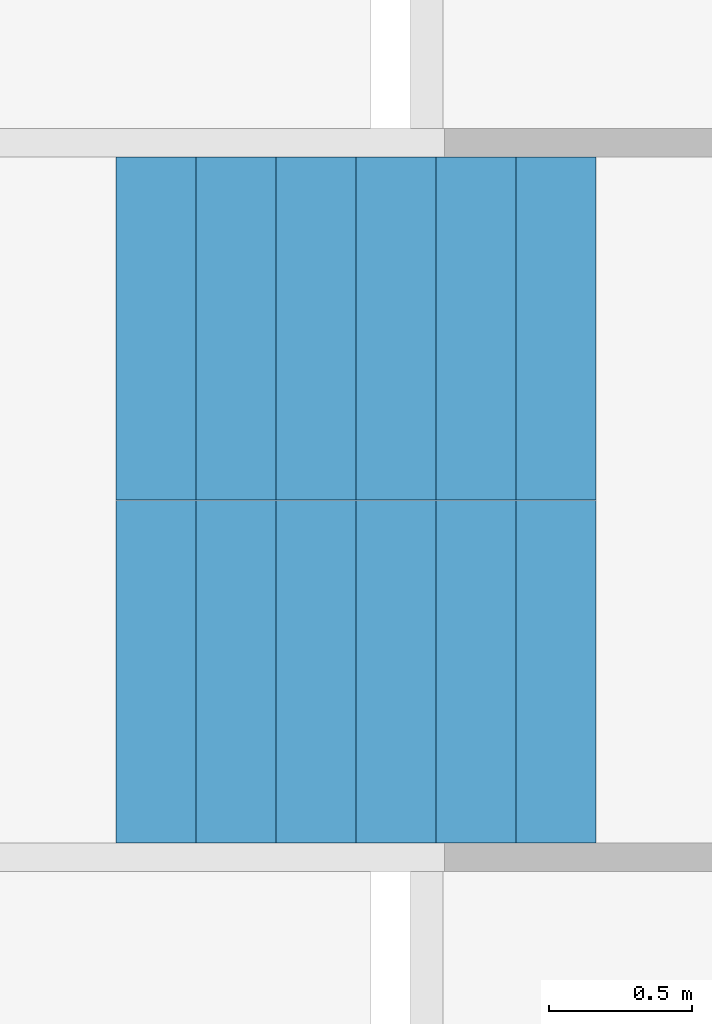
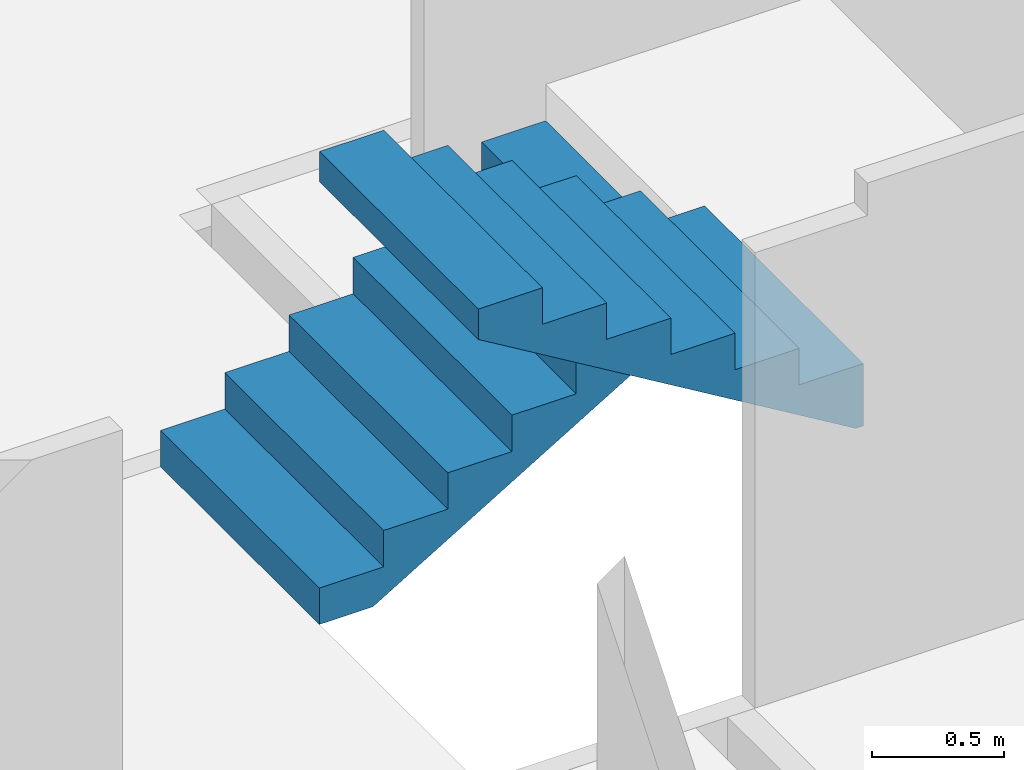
# One storey, part 6 of 6: 2 stair flights, 1 element without a shape of its own.
"""IFC4 building model written with IfcOpenShell, lengths in metres."""

from ifc_helpers import new_model, entity, si_unit, converted_unit, derived_unit, direction, frame, origin, place, context, subcontext, project, spatial, polygons, material, type_object, element, aggregate, save


model = new_model("IFC4")

# Units and contexts
model_context = context("Model", 3, precision=1e-05, world=origin(), true_north=direction((6.123031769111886e-17, 1.0)))
body_context = subcontext(model_context, "Body", "Model", "MODEL_VIEW")
ifc_project = project(units=[si_unit("LENGTHUNIT", "METRE"), si_unit("AREAUNIT", "SQUARE_METRE"), si_unit("VOLUMEUNIT", "CUBIC_METRE"), converted_unit("PLANEANGLEUNIT", "DEGREE", entity("IfcRatioMeasure", 0.017453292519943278), si_unit("PLANEANGLEUNIT", "RADIAN"), dimensions=[0, 0, 0, 0, 0, 0, 0]), si_unit("MASSUNIT", "GRAM", prefix="KILO"), derived_unit("MASSDENSITYUNIT", [(si_unit("MASSUNIT", "GRAM", prefix="KILO"), 1), (si_unit("LENGTHUNIT", "METRE"), -3)]), derived_unit("IONCONCENTRATIONUNIT", [(si_unit("MASSUNIT", "GRAM", prefix="KILO"), 1), (si_unit("LENGTHUNIT", "METRE"), -3)]), derived_unit("MOMENTOFINERTIAUNIT", [(si_unit("LENGTHUNIT", "METRE"), 4)]), si_unit("TIMEUNIT", "SECOND"), si_unit("FREQUENCYUNIT", "HERTZ"), si_unit("THERMODYNAMICTEMPERATUREUNIT", "DEGREE_CELSIUS"), derived_unit("THERMALTRANSMITTANCEUNIT", [(si_unit("MASSUNIT", "GRAM", prefix="KILO"), 1), (si_unit("THERMODYNAMICTEMPERATUREUNIT", "KELVIN"), -1), (si_unit("TIMEUNIT", "SECOND"), -3)]), derived_unit("THERMALCONDUCTANCEUNIT", [(si_unit("MASSUNIT", "GRAM", prefix="KILO"), 1), (si_unit("THERMODYNAMICTEMPERATUREUNIT", "KELVIN"), -1), (si_unit("TIMEUNIT", "SECOND"), -3), (si_unit("LENGTHUNIT", "METRE"), 1)]), derived_unit("VOLUMETRICFLOWRATEUNIT", [(si_unit("LENGTHUNIT", "METRE"), 3), (si_unit("TIMEUNIT", "SECOND"), -1)]), derived_unit("MASSFLOWRATEUNIT", [(si_unit("MASSUNIT", "GRAM", prefix="KILO"), 1), (si_unit("TIMEUNIT", "SECOND"), -1)]), derived_unit("ROTATIONALFREQUENCYUNIT", [(si_unit("TIMEUNIT", "SECOND"), -1)]), si_unit("ELECTRICCURRENTUNIT", "AMPERE"), si_unit("ELECTRICVOLTAGEUNIT", "VOLT"), si_unit("POWERUNIT", "WATT"), si_unit("FORCEUNIT", "NEWTON", prefix="KILO"), si_unit("ILLUMINANCEUNIT", "LUX"), si_unit("LUMINOUSFLUXUNIT", "LUMEN"), si_unit("LUMINOUSINTENSITYUNIT", "CANDELA"), derived_unit("USERDEFINED", [(si_unit("MASSUNIT", "GRAM", prefix="KILO"), -1), (si_unit("LENGTHUNIT", "METRE"), -2), (si_unit("TIMEUNIT", "SECOND"), 3), (si_unit("LUMINOUSFLUXUNIT", "LUMEN"), 1)]), derived_unit("USERDEFINED", [(si_unit("MASSUNIT", "GRAM", prefix="KILO"), 1), (si_unit("TIMEUNIT", "SECOND"), -3), (si_unit("LENGTHUNIT", "METRE"), 3), (si_unit("ELECTRICCURRENTUNIT", "AMPERE"), -2)]), derived_unit("SOUNDPOWERUNIT", [(si_unit("MASSUNIT", "GRAM", prefix="KILO"), 1), (si_unit("TIMEUNIT", "SECOND"), -3), (si_unit("LENGTHUNIT", "METRE"), 2)]), derived_unit("SOUNDPRESSUREUNIT", [(si_unit("MASSUNIT", "GRAM", prefix="KILO"), 1), (si_unit("LENGTHUNIT", "METRE"), -1), (si_unit("TIMEUNIT", "SECOND"), -2)]), derived_unit("LINEARVELOCITYUNIT", [(si_unit("LENGTHUNIT", "METRE"), 1), (si_unit("TIMEUNIT", "SECOND"), -1)]), si_unit("PRESSUREUNIT", "PASCAL"), derived_unit("USERDEFINED", [(si_unit("MASSUNIT", "GRAM", prefix="KILO"), 1), (si_unit("LENGTHUNIT", "METRE"), -2), (si_unit("TIMEUNIT", "SECOND"), -2)]), derived_unit("LINEARFORCEUNIT", [(si_unit("MASSUNIT", "GRAM", prefix="KILO"), 1), (si_unit("TIMEUNIT", "SECOND"), -2)]), derived_unit("PLANARFORCEUNIT", [(si_unit("MASSUNIT", "GRAM", prefix="KILO"), 1), (si_unit("LENGTHUNIT", "METRE"), -1), (si_unit("TIMEUNIT", "SECOND"), -2)]), derived_unit("SPECIFICHEATCAPACITYUNIT", [(si_unit("THERMODYNAMICTEMPERATUREUNIT", "KELVIN"), -1), (si_unit("LENGTHUNIT", "METRE"), 2), (si_unit("TIMEUNIT", "SECOND"), -2)]), derived_unit("HEATINGVALUEUNIT", [(si_unit("LENGTHUNIT", "METRE"), 2), (si_unit("TIMEUNIT", "SECOND"), -2)]), derived_unit("VAPORPERMEABILITYUNIT", [(si_unit("LENGTHUNIT", "METRE"), -1), (si_unit("TIMEUNIT", "SECOND"), 1)]), derived_unit("DYNAMICVISCOSITYUNIT", [(si_unit("MASSUNIT", "GRAM", prefix="KILO"), 1), (si_unit("TIMEUNIT", "SECOND"), -1), (si_unit("LENGTHUNIT", "METRE"), -1)]), derived_unit("THERMALEXPANSIONCOEFFICIENTUNIT", [(si_unit("THERMODYNAMICTEMPERATUREUNIT", "KELVIN"), -1)]), derived_unit("MODULUSOFELASTICITYUNIT", [(si_unit("MASSUNIT", "GRAM", prefix="KILO"), 1), (si_unit("LENGTHUNIT", "METRE"), -1), (si_unit("TIMEUNIT", "SECOND"), -2)]), derived_unit("ISOTHERMALMOISTURECAPACITYUNIT", [(si_unit("LENGTHUNIT", "METRE"), 3), (si_unit("MASSUNIT", "GRAM", prefix="KILO"), -1)]), derived_unit("MOISTUREDIFFUSIVITYUNIT", [(si_unit("TIMEUNIT", "SECOND"), -1), (si_unit("LENGTHUNIT", "METRE"), 2)])], contexts=[model_context])

# Site, building, storey
site_placement = place(None, origin())
site = spatial("IfcSite", under=ifc_project, at=site_placement, Name="Default", CompositionType="ELEMENT")
building_placement = place(site_placement, origin())
building = spatial("IfcBuilding", under=site, at=building_placement, Name="Las nubes", CompositionType="ELEMENT")
storey_placement = place(building_placement, frame((0.0, 0.0, 7.050000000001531)))
storey = spatial("IfcBuildingStorey", under=building, at=storey_placement, Name="PISO 4", CompositionType="ELEMENT", Elevation=7.050000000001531)

# Stair, stair flights
stair_type = type_object("IfcStairType", Name="Cast-In-Place Stair:B1080_Escalera Monolitica en Concreto", PredefinedType="HALF_TURN_STAIR")
stair_placement = place(storey_placement, origin())
stair = element("IfcStair", 1, at=stair_placement, inside=storey, type_object=stair_type, Name="Cast-In-Place Stair:Stair", ObjectType="Cast-In-Place Stair:B1080_Escalera Monolitica en Concreto", PredefinedType="HALF_TURN_STAIR")
ifc_material = material(Name="Concrete, Cast In Situ", Category="Materials")
stair_flight_type = type_object("IfcStairFlightType", Name="Monolithic Run:120mm Depth", PredefinedType="STRAIGHT")
stair_flight_1_placement = place(stair_placement, frame((9.55250000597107, -6.4250000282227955, 0.0)))
stair_flight_1 = element("IfcStairFlight", 2, at=stair_flight_1_placement, type_object=stair_flight_type, material=ifc_material, Name="Cast-In-Place Stair:Stair:524173 Run 1", ObjectType="Monolithic Run:120mm Depth", PredefinedType="STRAIGHT", context=body_context, shape_type="Tessellation", body=[
    polygons([(0.2800000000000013, 1.2000000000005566, 0.16785714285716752), (1.0828671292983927e-15, 1.2000000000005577, 0.16785714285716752), (1.0828671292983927e-15, 5.4143356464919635e-15, 0.16785714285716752), (0.27999999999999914, 4.331468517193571e-15, 0.16785714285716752), (0.28000000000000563, 1.2000000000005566, 0.027945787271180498), (0.23338404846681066, 1.2000000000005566, 1.0828671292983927e-15), (1.0828671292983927e-15, 1.2000000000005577, -1.0828671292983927e-15), (1.0828671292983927e-15, 5.4143356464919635e-15, -1.0828671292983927e-15), (0.2333840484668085, 4.331468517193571e-15, -1.0828671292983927e-15), (0.27999999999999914, 4.331468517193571e-15, 0.02794578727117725), (0.5600000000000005, 1.2000000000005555, 0.33571428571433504), (0.27999999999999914, 1.2000000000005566, 0.3357142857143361), (0.27999999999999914, 4.331468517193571e-15, 0.3357142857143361), (0.5599999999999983, 3.2486013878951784e-15, 0.33571428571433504), (0.5600000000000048, 1.2000000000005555, 0.19580293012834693), (0.5599999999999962, 3.2486013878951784e-15, 0.19580293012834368), (0.8400000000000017, 1.2000000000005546, 0.5035714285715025), (0.5600000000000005, 1.2000000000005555, 0.5035714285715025), (0.5600000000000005, 3.2486013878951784e-15, 0.5035714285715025), (0.8399999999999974, 2.1657342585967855e-15, 0.5035714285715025), (0.840000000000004, 1.2000000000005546, 0.3636600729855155), (0.8399999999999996, 3.2486013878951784e-15, 0.3636600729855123), (1.120000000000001, 1.2000000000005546, 0.6714285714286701), (0.8399999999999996, 1.2000000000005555, 0.671428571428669), (0.8399999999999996, 3.2486013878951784e-15, 0.671428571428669), (1.1199999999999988, 2.1657342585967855e-15, 0.6714285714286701), (1.1200000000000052, 1.2000000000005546, 0.531517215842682), (1.1199999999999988, 2.1657342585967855e-15, 0.5315172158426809), (1.4000000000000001, 1.2000000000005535, 0.8392857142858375), (1.1199999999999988, 1.2000000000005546, 0.8392857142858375), (1.1199999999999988, 2.1657342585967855e-15, 0.8392857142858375), (1.3999999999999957, 1.0828671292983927e-15, 0.8392857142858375), (1.4000000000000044, 1.2000000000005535, 0.6993743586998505), (1.399999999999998, 1.0828671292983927e-15, 0.6993743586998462), (1.6800000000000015, 1.2000000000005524, 1.007142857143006), (1.399999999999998, 1.2000000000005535, 1.007142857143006), (1.399999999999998, 1.0828671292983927e-15, 1.007142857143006), (1.679999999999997, 0.0, 1.007142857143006), (1.6800000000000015, 1.2000000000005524, 0.8672315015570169), (1.6799999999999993, 0.0, 0.8672315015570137)], [[[1, 2, 3, 4]], [[2, 1, 5, 6, 7]], [[3, 2, 7, 8]], [[4, 3, 8, 9, 10]], [[11, 12, 13, 14]], [[12, 11, 15, 5, 1]], [[1, 4, 13, 12]], [[14, 13, 4, 10, 16]], [[17, 18, 19, 20]], [[18, 17, 21, 15, 11]], [[11, 14, 19, 18]], [[20, 19, 14, 16, 22]], [[23, 24, 25, 26]], [[24, 23, 27, 21, 17]], [[17, 20, 25, 24]], [[26, 25, 20, 22, 28]], [[29, 30, 31, 32]], [[30, 29, 33, 27, 23]], [[23, 26, 31, 30]], [[32, 31, 26, 28, 34]], [[35, 36, 37, 38]], [[36, 35, 39, 33, 29]], [[29, 32, 37, 36]], [[38, 37, 32, 34, 40]], [[35, 38, 40, 39]], [[8, 7, 6, 9]], [[9, 6, 5, 15, 21, 27, 33, 39, 40, 34, 28, 22, 16, 10]]], closed=True),
])
stair_flight_2_placement = place(stair_placement, frame((9.552500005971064, -7.625000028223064, 0.0)))
stair_flight_2 = element("IfcStairFlight", 3, at=stair_flight_2_placement, type_object=stair_flight_type, material=ifc_material, Name="Cast-In-Place Stair:Stair:524173 Run 2", ObjectType="Monolithic Run:120mm Depth", PredefinedType="STRAIGHT", context=body_context, shape_type="Tessellation", body=[
    polygons([(1.6799999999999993, 0.0, 1.342857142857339), (1.6799999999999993, 1.1990000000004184, 1.342857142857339), (1.6467861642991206, 1.1990000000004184, 1.3428571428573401), (1.4000000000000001, 1.1990000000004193, 1.3428571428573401), (1.399999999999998, 1.0828671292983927e-15, 1.3428571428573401), (1.6467861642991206, 0.0, 1.3428571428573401), (1.4000000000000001, 1.0828671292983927e-15, 1.202945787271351), (1.6467861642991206, 0.0, 1.0550000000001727), (1.6799999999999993, 0.0, 1.0550000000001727), (1.6799999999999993, 0.0, 1.1750000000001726), (1.6799999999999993, 1.1990000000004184, 1.0550000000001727), (1.6467861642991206, 1.1990000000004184, 1.0550000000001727), (1.4000000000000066, 1.1990000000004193, 1.2029457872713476), (1.1199999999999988, 2.1657342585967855e-15, 1.5107142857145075), (1.399999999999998, 1.0828671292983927e-15, 1.5107142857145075), (1.399999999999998, 1.1990000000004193, 1.5107142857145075), (1.1199999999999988, 1.1990000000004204, 1.5107142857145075), (1.120000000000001, 1.0828671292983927e-15, 1.3708029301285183), (1.1200000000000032, 1.1990000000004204, 1.3708029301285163), (0.8399999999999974, 2.1657342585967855e-15, 1.678571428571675), (1.1199999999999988, 1.0828671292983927e-15, 1.6785714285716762), (1.1199999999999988, 1.1990000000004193, 1.6785714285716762), (0.8399999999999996, 1.1990000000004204, 1.678571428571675), (0.8399999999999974, 1.0828671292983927e-15, 1.5386600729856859), (0.840000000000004, 1.1990000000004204, 1.5386600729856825), (0.5599999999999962, 3.2486013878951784e-15, 1.8464285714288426), (0.8399999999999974, 1.0828671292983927e-15, 1.8464285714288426), (0.8399999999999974, 1.1990000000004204, 1.8464285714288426), (0.5600000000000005, 1.1990000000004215, 1.8464285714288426), (0.5599999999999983, 3.2486013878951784e-15, 1.7065172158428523), (0.5600000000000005, 1.1990000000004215, 1.7065172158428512), (0.27999999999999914, 4.331468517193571e-15, 2.01428571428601), (0.5599999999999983, 3.2486013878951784e-15, 2.014285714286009), (0.5599999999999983, 1.1990000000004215, 2.014285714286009), (0.2800000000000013, 1.1990000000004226, 2.01428571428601), (0.27999999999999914, 4.331468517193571e-15, 1.874374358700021), (0.28000000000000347, 1.1990000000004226, 1.8743743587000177), (1.0828671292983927e-15, 5.4143356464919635e-15, 2.1821428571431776), (0.2800000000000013, 4.331468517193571e-15, 2.1821428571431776), (0.2800000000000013, 1.1990000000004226, 2.1821428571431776), (3.2486013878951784e-15, 1.1990000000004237, 2.1821428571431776), (1.0828671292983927e-15, 5.4143356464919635e-15, 2.0422315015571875), (5.4143356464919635e-15, 1.1990000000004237, 2.042231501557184)], [[[1, 2, 3, 4, 5, 6]], [[5, 7, 8, 9, 10, 1, 6]], [[2, 1, 10, 9, 11]], [[2, 11, 12, 13, 4, 3]], [[14, 15, 16, 17]], [[15, 14, 18, 7, 5]], [[16, 15, 5, 4]], [[17, 16, 4, 13, 19]], [[20, 21, 22, 23]], [[21, 20, 24, 18, 14]], [[22, 21, 14, 17]], [[23, 22, 17, 19, 25]], [[26, 27, 28, 29]], [[27, 26, 30, 24, 20]], [[28, 27, 20, 23]], [[29, 28, 23, 25, 31]], [[32, 33, 34, 35]], [[33, 32, 36, 30, 26]], [[34, 33, 26, 29]], [[35, 34, 29, 31, 37]], [[38, 39, 40, 41]], [[39, 38, 42, 36, 32]], [[40, 39, 32, 35]], [[41, 40, 35, 37, 43]], [[38, 41, 43, 42]], [[12, 8, 7, 18, 24, 30, 36, 42, 43, 37, 31, 25, 19, 13]], [[8, 12, 11, 9]]], closed=True),
])
aggregate(stair, [stair_flight_1, stair_flight_2])

save(model, "model.ifc")
